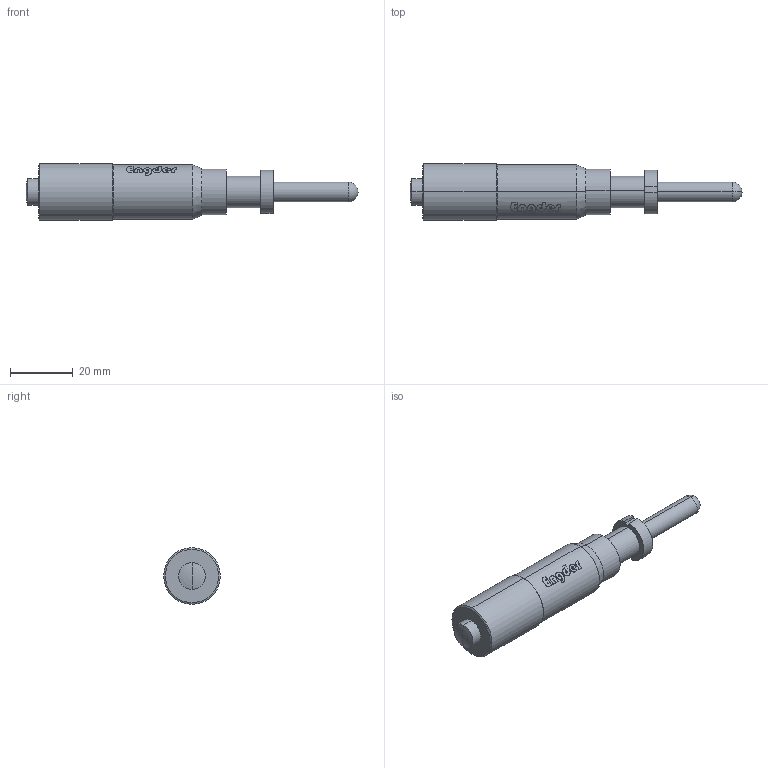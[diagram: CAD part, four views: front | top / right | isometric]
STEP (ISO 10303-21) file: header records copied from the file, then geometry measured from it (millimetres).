
FILE_DESCRIPTION (( 'STEP AP203' ), '1' );
FILE_NAME ('MT25-4_Customer.STEP', '2019-02-13T12:14:35', ( 'User' ), ( 'No' ), 'SwSTEP 2.0', 'SolidWorks 2012', '' );
FILE_SCHEMA (( 'CONFIG_CONTROL_DESIGN' ));
Length unit declared in the file: millimetre
Products named in the file (4): MT25-4_a-customer; MT25-4_b-customer; MT25-4_c-customer; MT25-4_Customer
Assembly tree (3 placements, depth 2):
  MT25-4_Customer
    MT25-4_a-customer
    MT25-4_b-customer
    MT25-4_c-customer
Bounding box: 105.67 x 18 x 18 mm (x, y, z)
Volume: 15009.1 mm3; surface area: 10253.5 mm2
Topology: 3 solids, 3 shells, 143 faces, 362 edges, 233 vertices
Faces by surface type: bspline 49, plane 46, cylinder 32, cone 8, torus 6, sphere 2
Entity records: 10399 total; most frequent: CARTESIAN_POINT 6945, ORIENTED_EDGE 712, DIRECTION 496, EDGE_CURVE 356, VERTEX_POINT 231, AXIS2_PLACEMENT_3D 203, B_SPLINE_CURVE_WITH_KNOTS 163, EDGE_LOOP 159
